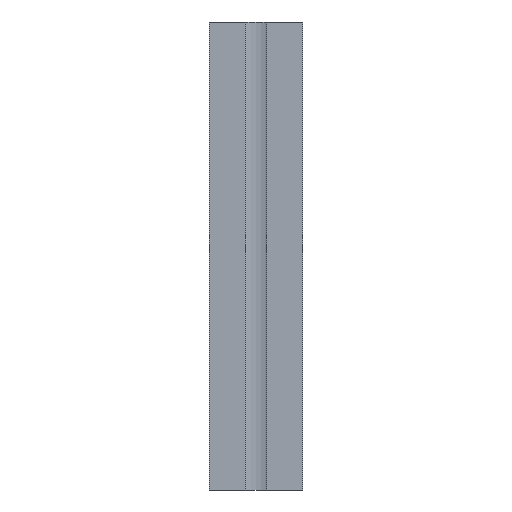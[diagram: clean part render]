
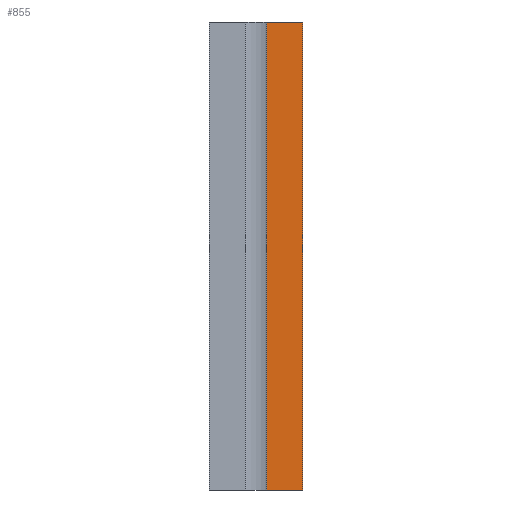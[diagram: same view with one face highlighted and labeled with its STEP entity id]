
A CAD part, front view. The second image highlights one B-rep face of the part: STEP entity #855.
In plain terms, the highlighted planar face has unit normal (0, -1, 0).
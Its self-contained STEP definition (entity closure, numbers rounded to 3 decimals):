
#35=LINE('',#1236,#135);
#82=LINE('',#1338,#182);
#83=LINE('',#1340,#183);
#84=LINE('',#1342,#184);
#135=VECTOR('',#1003,1000.);
#182=VECTOR('',#1090,1000.);
#183=VECTOR('',#1093,1000.);
#184=VECTOR('',#1094,1000.);
#235=PLANE('',#927);
#369=ORIENTED_EDGE('',*,*,#568,.F.);
#370=ORIENTED_EDGE('',*,*,#569,.F.);
#371=ORIENTED_EDGE('',*,*,#570,.T.);
#372=ORIENTED_EDGE('',*,*,#517,.F.);
#517=EDGE_CURVE('',#635,#636,#35,.T.);
#568=EDGE_CURVE('',#670,#635,#82,.T.);
#569=EDGE_CURVE('',#671,#670,#83,.T.);
#570=EDGE_CURVE('',#671,#636,#84,.T.);
#635=VERTEX_POINT('',#1235);
#636=VERTEX_POINT('',#1237);
#670=VERTEX_POINT('',#1337);
#671=VERTEX_POINT('',#1341);
#740=EDGE_LOOP('',(#369,#370,#371,#372));
#798=FACE_BOUND('',#740,.T.);
#855=ADVANCED_FACE('',(#798),#235,.T.);
#927=AXIS2_PLACEMENT_3D('',#1339,#1091,#1092);
#1003=DIRECTION('',(-1.,0.,0.));
#1090=DIRECTION('',(0.,0.,-1.));
#1091=DIRECTION('',(0.,-1.,0.));
#1092=DIRECTION('',(1.,0.,0.));
#1093=DIRECTION('',(1.,0.,0.));
#1094=DIRECTION('',(0.,0.,-1.));
#1235=CARTESIAN_POINT('',(10.,-10.,-50.));
#1236=CARTESIAN_POINT('',(0.005,-10.,-50.));
#1237=CARTESIAN_POINT('',(2.25,-10.,-50.));
#1337=CARTESIAN_POINT('',(10.,-10.,50.));
#1338=CARTESIAN_POINT('',(10.,-10.,0.));
#1339=CARTESIAN_POINT('',(-9.,-10.,0.));
#1340=CARTESIAN_POINT('',(0.005,-10.,50.));
#1341=CARTESIAN_POINT('',(2.25,-10.,50.));
#1342=CARTESIAN_POINT('',(2.25,-10.,0.));
